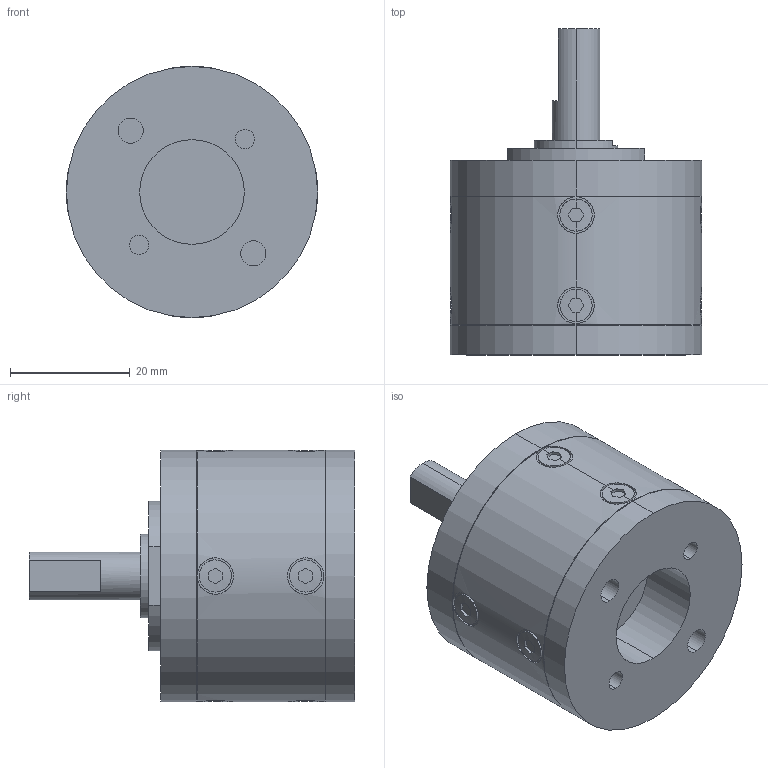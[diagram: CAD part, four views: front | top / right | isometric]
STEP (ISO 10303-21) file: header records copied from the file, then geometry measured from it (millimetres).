
FILE_DESCRIPTION (( 'STEP AP203' ), '1' );
FILE_NAME ('IG-42C-1stage.STEP', '2023-04-13T01:54:23', ( '' ), ( '' ), 'SwSTEP 2.0', 'SolidWorks 2019', '' );
FILE_SCHEMA (( 'CONFIG_CONTROL_DESIGN' ));
Length unit declared in the file: millimetre
Products named in the file (1): IG-42C-1stage
Bounding box: 42 x 54.5 x 42 mm (x, y, z)
Volume: 43870.3 mm3; surface area: 9266 mm2
Topology: 1 solids, 1 shells, 172 faces, 413 edges, 272 vertices
Faces by surface type: plane 93, cylinder 75, cone 4
Entity records: 6048 total; most frequent: CARTESIAN_POINT 2008, ORIENTED_EDGE 826, DIRECTION 813, EDGE_CURVE 413, AXIS2_PLACEMENT_3D 305, VERTEX_POINT 272, LINE 203, VECTOR 203
